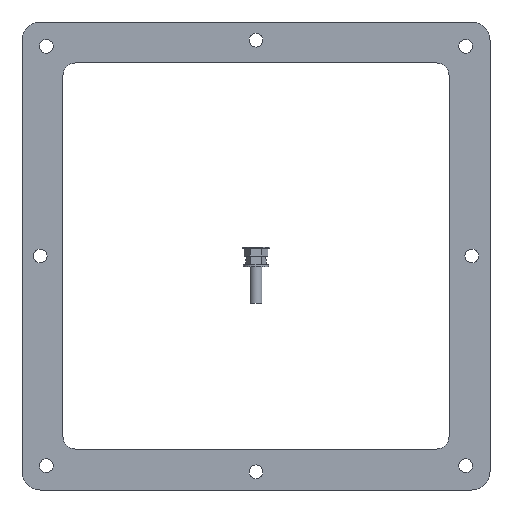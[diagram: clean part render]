
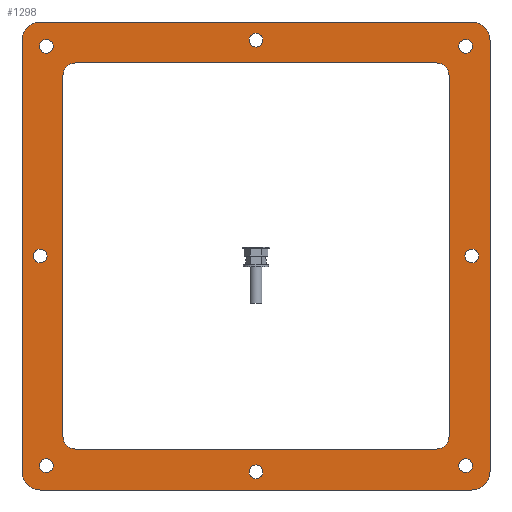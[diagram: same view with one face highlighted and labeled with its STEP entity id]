
A CAD part, front view. The second image highlights one B-rep face of the part: STEP entity #1298.
In plain terms, the highlighted planar face has unit normal (0, -1, 0).
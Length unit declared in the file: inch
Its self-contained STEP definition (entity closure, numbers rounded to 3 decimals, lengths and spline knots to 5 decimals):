
#109=CIRCLE('',#1413,0.375);
#111=CIRCLE('',#1417,0.375);
#113=CIRCLE('',#1421,0.375);
#115=CIRCLE('',#1425,0.375);
#117=CIRCLE('',#1428,0.25);
#119=CIRCLE('',#1432,0.25);
#121=CIRCLE('',#1436,0.25);
#123=CIRCLE('',#1440,0.25);
#133=CIRCLE('',#1454,0.1405);
#134=CIRCLE('',#1455,0.1405);
#135=CIRCLE('',#1456,0.1405);
#136=CIRCLE('',#1457,0.1405);
#137=CIRCLE('',#1458,0.1405);
#138=CIRCLE('',#1459,0.1405);
#139=CIRCLE('',#1460,0.1405);
#140=CIRCLE('',#1461,0.1405);
#447=ORIENTED_EDGE('',*,*,#652,.F.);
#448=ORIENTED_EDGE('',*,*,#653,.F.);
#449=ORIENTED_EDGE('',*,*,#654,.F.);
#450=ORIENTED_EDGE('',*,*,#655,.F.);
#451=ORIENTED_EDGE('',*,*,#656,.F.);
#452=ORIENTED_EDGE('',*,*,#657,.F.);
#453=ORIENTED_EDGE('',*,*,#658,.F.);
#454=ORIENTED_EDGE('',*,*,#659,.F.);
#455=ORIENTED_EDGE('',*,*,#618,.F.);
#456=ORIENTED_EDGE('',*,*,#622,.F.);
#457=ORIENTED_EDGE('',*,*,#625,.F.);
#458=ORIENTED_EDGE('',*,*,#628,.F.);
#459=ORIENTED_EDGE('',*,*,#631,.F.);
#460=ORIENTED_EDGE('',*,*,#634,.F.);
#461=ORIENTED_EDGE('',*,*,#637,.F.);
#462=ORIENTED_EDGE('',*,*,#640,.F.);
#463=ORIENTED_EDGE('',*,*,#596,.T.);
#464=ORIENTED_EDGE('',*,*,#600,.T.);
#465=ORIENTED_EDGE('',*,*,#603,.T.);
#466=ORIENTED_EDGE('',*,*,#606,.T.);
#467=ORIENTED_EDGE('',*,*,#609,.T.);
#468=ORIENTED_EDGE('',*,*,#612,.T.);
#469=ORIENTED_EDGE('',*,*,#615,.T.);
#470=ORIENTED_EDGE('',*,*,#642,.T.);
#596=EDGE_CURVE('',#734,#735,#109,.T.);
#600=EDGE_CURVE('',#735,#738,#853,.T.);
#603=EDGE_CURVE('',#738,#740,#111,.T.);
#606=EDGE_CURVE('',#740,#742,#857,.T.);
#609=EDGE_CURVE('',#742,#744,#113,.T.);
#612=EDGE_CURVE('',#744,#746,#861,.T.);
#615=EDGE_CURVE('',#746,#748,#115,.T.);
#618=EDGE_CURVE('',#750,#751,#117,.T.);
#622=EDGE_CURVE('',#754,#750,#867,.T.);
#625=EDGE_CURVE('',#756,#754,#119,.T.);
#628=EDGE_CURVE('',#758,#756,#871,.T.);
#631=EDGE_CURVE('',#760,#758,#121,.T.);
#634=EDGE_CURVE('',#762,#760,#875,.T.);
#637=EDGE_CURVE('',#764,#762,#123,.T.);
#640=EDGE_CURVE('',#751,#764,#879,.T.);
#642=EDGE_CURVE('',#748,#734,#881,.T.);
#652=EDGE_CURVE('',#774,#774,#133,.T.);
#653=EDGE_CURVE('',#775,#775,#134,.T.);
#654=EDGE_CURVE('',#776,#776,#135,.T.);
#655=EDGE_CURVE('',#777,#777,#136,.T.);
#656=EDGE_CURVE('',#778,#778,#137,.T.);
#657=EDGE_CURVE('',#779,#779,#138,.T.);
#658=EDGE_CURVE('',#780,#780,#139,.T.);
#659=EDGE_CURVE('',#781,#781,#140,.T.);
#734=VERTEX_POINT('',#2148);
#735=VERTEX_POINT('',#2149);
#738=VERTEX_POINT('',#2157);
#740=VERTEX_POINT('',#2163);
#742=VERTEX_POINT('',#2169);
#744=VERTEX_POINT('',#2175);
#746=VERTEX_POINT('',#2181);
#748=VERTEX_POINT('',#2187);
#750=VERTEX_POINT('',#2193);
#751=VERTEX_POINT('',#2194);
#754=VERTEX_POINT('',#2202);
#756=VERTEX_POINT('',#2208);
#758=VERTEX_POINT('',#2214);
#760=VERTEX_POINT('',#2220);
#762=VERTEX_POINT('',#2226);
#764=VERTEX_POINT('',#2232);
#774=VERTEX_POINT('',#2261);
#775=VERTEX_POINT('',#2263);
#776=VERTEX_POINT('',#2265);
#777=VERTEX_POINT('',#2267);
#778=VERTEX_POINT('',#2269);
#779=VERTEX_POINT('',#2271);
#780=VERTEX_POINT('',#2273);
#781=VERTEX_POINT('',#2275);
#853=LINE('',#2156,#954);
#857=LINE('',#2168,#958);
#861=LINE('',#2180,#962);
#867=LINE('',#2201,#968);
#871=LINE('',#2213,#972);
#875=LINE('',#2225,#976);
#879=LINE('',#2237,#980);
#881=LINE('',#2240,#982);
#954=VECTOR('',#1683,39.37008);
#958=VECTOR('',#1695,39.37008);
#962=VECTOR('',#1707,39.37008);
#968=VECTOR('',#1727,39.37008);
#972=VECTOR('',#1739,39.37008);
#976=VECTOR('',#1751,39.37008);
#980=VECTOR('',#1763,39.37008);
#982=VECTOR('',#1767,39.37008);
#1063=EDGE_LOOP('',(#447));
#1064=EDGE_LOOP('',(#448));
#1065=EDGE_LOOP('',(#449));
#1066=EDGE_LOOP('',(#450));
#1067=EDGE_LOOP('',(#451));
#1068=EDGE_LOOP('',(#452));
#1069=EDGE_LOOP('',(#453));
#1070=EDGE_LOOP('',(#454));
#1071=EDGE_LOOP('',(#455,#456,#457,#458,#459,#460,#461,#462));
#1072=EDGE_LOOP('',(#463,#464,#465,#466,#467,#468,#469,#470));
#1168=FACE_BOUND('',#1063,.T.);
#1169=FACE_BOUND('',#1064,.T.);
#1170=FACE_BOUND('',#1065,.T.);
#1171=FACE_BOUND('',#1066,.T.);
#1172=FACE_BOUND('',#1067,.T.);
#1173=FACE_BOUND('',#1068,.T.);
#1174=FACE_BOUND('',#1069,.T.);
#1175=FACE_BOUND('',#1070,.T.);
#1176=FACE_BOUND('',#1071,.T.);
#1177=FACE_BOUND('',#1072,.T.);
#1235=PLANE('',#1453);
#1298=ADVANCED_FACE('',(#1168,#1169,#1170,#1171,#1172,#1173,#1174,#1175,
#1176,#1177),#1235,.T.);
#1413=AXIS2_PLACEMENT_3D('',#2147,#1675,#1676);
#1417=AXIS2_PLACEMENT_3D('',#2162,#1688,#1689);
#1421=AXIS2_PLACEMENT_3D('',#2174,#1700,#1701);
#1425=AXIS2_PLACEMENT_3D('',#2186,#1712,#1713);
#1428=AXIS2_PLACEMENT_3D('',#2192,#1719,#1720);
#1432=AXIS2_PLACEMENT_3D('',#2207,#1732,#1733);
#1436=AXIS2_PLACEMENT_3D('',#2219,#1744,#1745);
#1440=AXIS2_PLACEMENT_3D('',#2231,#1756,#1757);
#1453=AXIS2_PLACEMENT_3D('',#2259,#1787,#1788);
#1454=AXIS2_PLACEMENT_3D('',#2260,#1789,#1790);
#1455=AXIS2_PLACEMENT_3D('',#2262,#1791,#1792);
#1456=AXIS2_PLACEMENT_3D('',#2264,#1793,#1794);
#1457=AXIS2_PLACEMENT_3D('',#2266,#1795,#1796);
#1458=AXIS2_PLACEMENT_3D('',#2268,#1797,#1798);
#1459=AXIS2_PLACEMENT_3D('',#2270,#1799,#1800);
#1460=AXIS2_PLACEMENT_3D('',#2272,#1801,#1802);
#1461=AXIS2_PLACEMENT_3D('',#2274,#1803,#1804);
#1675=DIRECTION('',(0.,-1.,0.));
#1676=DIRECTION('',(1.,0.,0.));
#1683=DIRECTION('',(1.,0.,0.));
#1688=DIRECTION('',(0.,-1.,0.));
#1689=DIRECTION('',(-1.,0.,0.));
#1695=DIRECTION('',(0.,0.,1.));
#1700=DIRECTION('',(0.,-1.,0.));
#1701=DIRECTION('',(1.,0.,0.));
#1707=DIRECTION('',(-1.,0.,0.));
#1712=DIRECTION('',(0.,-1.,0.));
#1713=DIRECTION('',(1.,0.,0.));
#1719=DIRECTION('',(0.,-1.,0.));
#1720=DIRECTION('',(1.,0.,0.));
#1727=DIRECTION('',(0.,0.,1.));
#1732=DIRECTION('',(0.,-1.,0.));
#1733=DIRECTION('',(-1.,0.,0.));
#1739=DIRECTION('',(1.,0.,0.));
#1744=DIRECTION('',(0.,-1.,0.));
#1745=DIRECTION('',(1.,0.,0.));
#1751=DIRECTION('',(0.,0.,-1.));
#1756=DIRECTION('',(0.,-1.,0.));
#1757=DIRECTION('',(1.,0.,0.));
#1763=DIRECTION('',(-1.,0.,0.));
#1767=DIRECTION('',(0.,0.,-1.));
#1787=DIRECTION('',(0.,-1.,0.));
#1788=DIRECTION('',(0.,0.,-1.));
#1789=DIRECTION('',(0.,-1.,0.));
#1790=DIRECTION('',(1.,0.,0.));
#1791=DIRECTION('',(0.,-1.,0.));
#1792=DIRECTION('',(1.,0.,0.));
#1793=DIRECTION('',(0.,-1.,0.));
#1794=DIRECTION('',(1.,0.,0.));
#1795=DIRECTION('',(0.,-1.,0.));
#1796=DIRECTION('',(1.,0.,0.));
#1797=DIRECTION('',(0.,-1.,0.));
#1798=DIRECTION('',(1.,0.,0.));
#1799=DIRECTION('',(0.,-1.,0.));
#1800=DIRECTION('',(1.,0.,0.));
#1801=DIRECTION('',(0.,-1.,0.));
#1802=DIRECTION('',(1.,0.,0.));
#1803=DIRECTION('',(0.,-1.,0.));
#1804=DIRECTION('',(1.,0.,0.));
#2147=CARTESIAN_POINT('',(-4.4375,0.,-4.4375));
#2148=CARTESIAN_POINT('',(-4.8125,0.,-4.4375));
#2149=CARTESIAN_POINT('',(-4.4375,0.,-4.8125));
#2156=CARTESIAN_POINT('',(-4.4375,0.,-4.8125));
#2157=CARTESIAN_POINT('',(4.4375,0.,-4.8125));
#2162=CARTESIAN_POINT('',(4.4375,0.,-4.4375));
#2163=CARTESIAN_POINT('',(4.8125,0.,-4.4375));
#2168=CARTESIAN_POINT('',(4.8125,0.,-4.4375));
#2169=CARTESIAN_POINT('',(4.8125,0.,4.4375));
#2174=CARTESIAN_POINT('',(4.4375,0.,4.4375));
#2175=CARTESIAN_POINT('',(4.4375,0.,4.8125));
#2180=CARTESIAN_POINT('',(4.4375,0.,4.8125));
#2181=CARTESIAN_POINT('',(-4.4375,0.,4.8125));
#2186=CARTESIAN_POINT('',(-4.4375,0.,4.4375));
#2187=CARTESIAN_POINT('',(-4.8125,0.,4.4375));
#2192=CARTESIAN_POINT('',(3.7195,0.,3.7195));
#2193=CARTESIAN_POINT('',(3.9695,0.,3.7195));
#2194=CARTESIAN_POINT('',(3.7195,0.,3.9695));
#2201=CARTESIAN_POINT('',(3.9695,0.,-3.7195));
#2202=CARTESIAN_POINT('',(3.9695,0.,-3.7195));
#2207=CARTESIAN_POINT('',(3.7195,0.,-3.7195));
#2208=CARTESIAN_POINT('',(3.7195,0.,-3.9695));
#2213=CARTESIAN_POINT('',(-3.7195,0.,-3.9695));
#2214=CARTESIAN_POINT('',(-3.7195,0.,-3.9695));
#2219=CARTESIAN_POINT('',(-3.7195,0.,-3.7195));
#2220=CARTESIAN_POINT('',(-3.9695,0.,-3.7195));
#2225=CARTESIAN_POINT('',(-3.9695,0.,3.7195));
#2226=CARTESIAN_POINT('',(-3.9695,0.,3.7195));
#2231=CARTESIAN_POINT('',(-3.7195,0.,3.7195));
#2232=CARTESIAN_POINT('',(-3.7195,0.,3.9695));
#2237=CARTESIAN_POINT('',(3.7195,0.,3.9695));
#2240=CARTESIAN_POINT('',(-4.8125,0.,4.4375));
#2259=CARTESIAN_POINT('',(-4.4375,0.,-4.4375));
#2260=CARTESIAN_POINT('',(-4.3125,0.,4.3125));
#2261=CARTESIAN_POINT('',(-4.172,0.,4.3125));
#2262=CARTESIAN_POINT('',(-4.4375,0.,0.));
#2263=CARTESIAN_POINT('',(-4.297,0.,0.));
#2264=CARTESIAN_POINT('',(0.,0.,4.4375));
#2265=CARTESIAN_POINT('',(0.1405,0.,4.4375));
#2266=CARTESIAN_POINT('',(4.4375,0.,0.));
#2267=CARTESIAN_POINT('',(4.578,0.,0.));
#2268=CARTESIAN_POINT('',(0.,0.,-4.4375));
#2269=CARTESIAN_POINT('',(0.1405,0.,-4.4375));
#2270=CARTESIAN_POINT('',(-4.3125,0.,-4.3125));
#2271=CARTESIAN_POINT('',(-4.172,0.,-4.3125));
#2272=CARTESIAN_POINT('',(4.3125,0.,-4.3125));
#2273=CARTESIAN_POINT('',(4.453,0.,-4.3125));
#2274=CARTESIAN_POINT('',(4.3125,0.,4.3125));
#2275=CARTESIAN_POINT('',(4.453,0.,4.3125));
